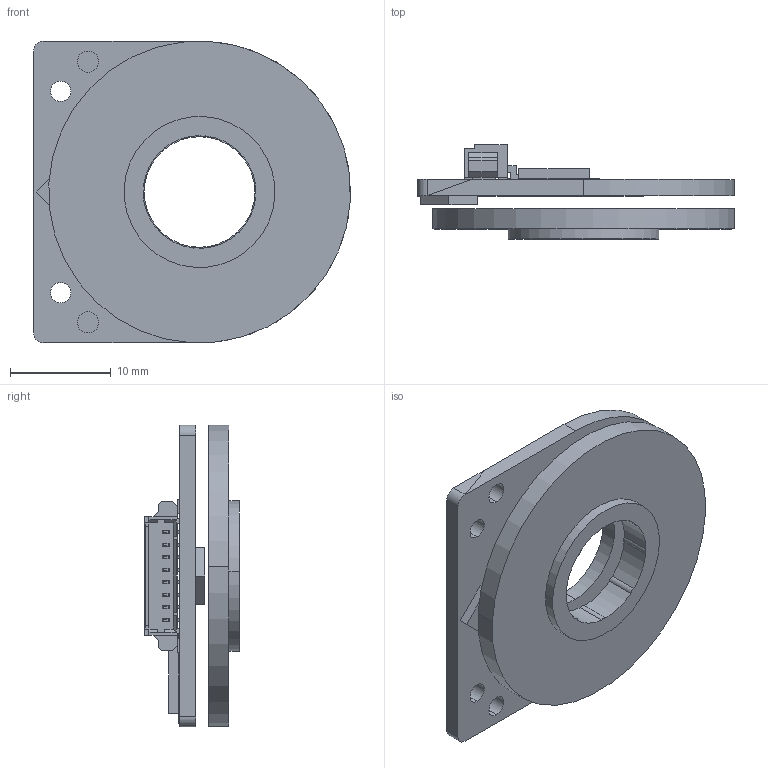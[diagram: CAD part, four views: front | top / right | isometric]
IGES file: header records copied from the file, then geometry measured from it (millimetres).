
Start section: SolidWorks IGES file using analytic representation for surfaces
Global section: file name: C:\Users\Administrator\Desktop\埻唳蜊\11\eCoder11.IGS,15; native system: HSolidWorks 2021; preprocessor: SolidWorks 2021; author: ZERO; date: 221228.171326; units: millimetre
Bounding box: 31.5 x 9.35 x 30 mm (x, y, z)
Volume: 2645.9 mm3; surface area: 3983.3 mm2
Topology: 6 solids, 6 shells, 328 faces, 857 edges, 556 vertices
Faces by surface type: plane 288, revolution 40
